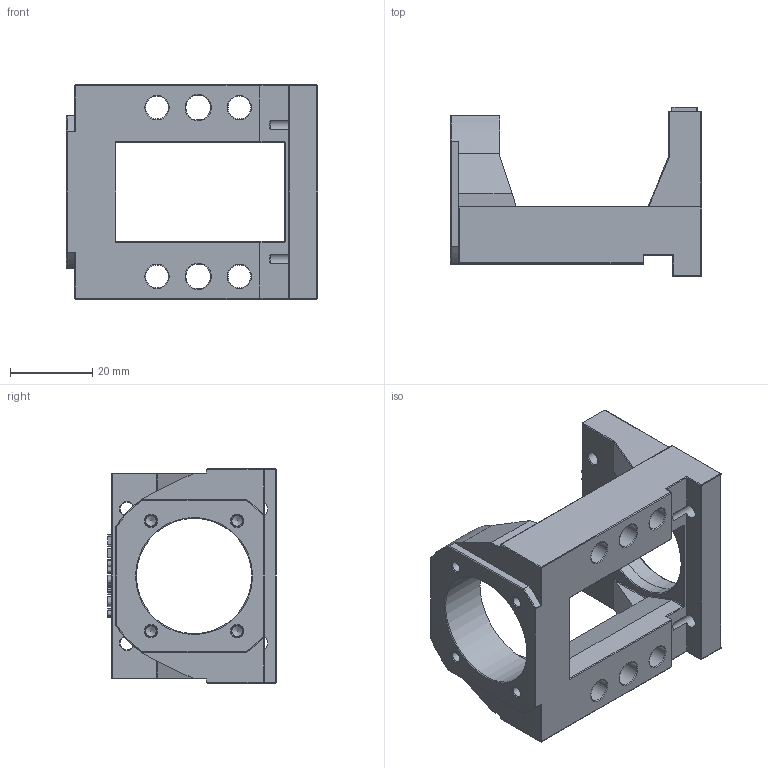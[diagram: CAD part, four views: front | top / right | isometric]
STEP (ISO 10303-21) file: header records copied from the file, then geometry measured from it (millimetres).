
FILE_DESCRIPTION(/* description */ (''),/* implementation_level */ '2;1');
FILE_NAME(/* name */ 'M40B-FKA6 8-A.stp',/* time_stamp */ '2016-10-27T09:51:04+08:00',/* author */ (''),/* organization */ (''),/* preprocessor_version */ 'ST-DEVELOPER v15',/* originating_system */ 'SIEMENS PLM Software NX 8.5',/* authorisation */ '');
FILE_SCHEMA (('CONFIG_CONTROL_DESIGN'));
Length unit declared in the file: millimetre
Products named in the file (1): MBA06 08B
Bounding box: 61 x 41 x 52 mm (x, y, z)
Volume: 34857.5 mm3; surface area: 15662.6 mm2
Topology: 1 solids, 1 shells, 281 faces, 719 edges, 440 vertices
Faces by surface type: plane 104, cylinder 79, extrusion 41, torus 27, cone 18, sphere 12
Full cylindrical faces by diameter (mm): 2.6 x4, 3.3 x4, 5.5 x4, 6 x2, 9.5 x4, 28 x2, 30 x1
Entity records: 8628 total; most frequent: CARTESIAN_POINT 2488, ORIENTED_EDGE 1264, DIRECTION 1076, EDGE_CURVE 632, VERTEX_POINT 425, AXIS2_PLACEMENT_3D 384, EDGE_LOOP 375, VECTOR 308
